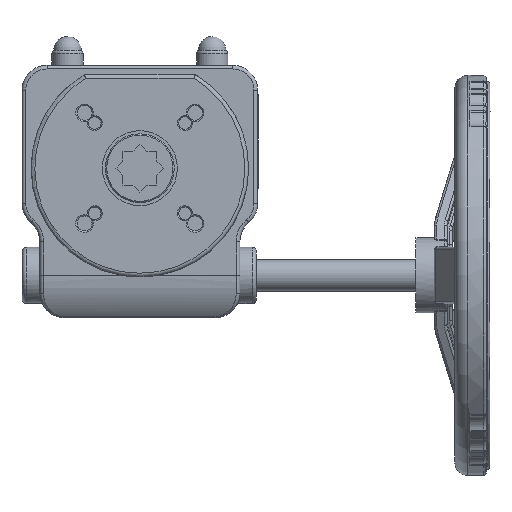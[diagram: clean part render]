
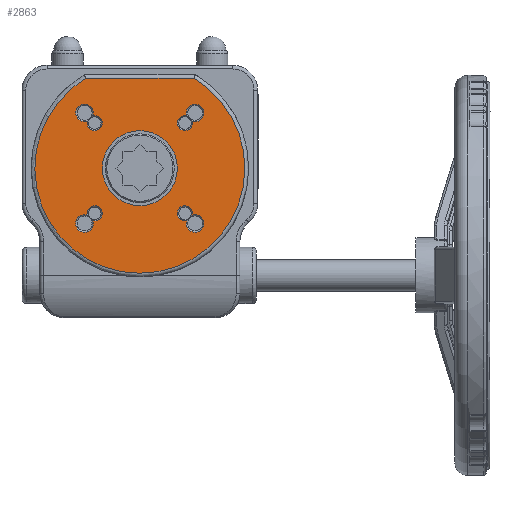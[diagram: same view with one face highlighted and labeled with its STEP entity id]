
A CAD part, front view. The second image highlights one B-rep face of the part: STEP entity #2863.
In plain terms, the highlighted planar face has unit normal (0, -1, 0).
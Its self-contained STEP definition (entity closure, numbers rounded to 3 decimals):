
#2863=ADVANCED_FACE('',(#12399,#12401,#12403,#12405,#12407,#12409),#12411,.T.);
#12399=FACE_BOUND('',#12400,.T.);
#12400=EDGE_LOOP('',(#24215,#24216));
#12401=FACE_BOUND('',#12402,.T.);
#12402=EDGE_LOOP('',(#24217));
#12403=FACE_BOUND('',#12404,.T.);
#12404=EDGE_LOOP('',(#24218,#24219,#24220,#24221));
#12405=FACE_BOUND('',#12406,.T.);
#12406=EDGE_LOOP('',(#24222,#24223,#24224,#24225));
#12407=FACE_BOUND('',#12408,.T.);
#12408=EDGE_LOOP('',(#24226,#24227,#24228,#24229));
#12409=FACE_BOUND('',#12410,.T.);
#12410=EDGE_LOOP('',(#24230,#24231,#24232,#24233));
#12411=PLANE('',#12412);
#12412=AXIS2_PLACEMENT_3D('',#12413,#12414,#12415);
#12413=CARTESIAN_POINT('',(0.,0.,0.));
#12414=DIRECTION('',(0.,-1.,0.));
#12415=DIRECTION('',(0.,0.,-1.));
#24215=ORIENTED_EDGE('',*,*,#28314,.T.);
#24216=ORIENTED_EDGE('',*,*,#28316,.T.);
#24217=ORIENTED_EDGE('',*,*,#28321,.T.);
#24218=ORIENTED_EDGE('',*,*,#28322,.F.);
#24219=ORIENTED_EDGE('',*,*,#28323,.F.);
#24220=ORIENTED_EDGE('',*,*,#28324,.F.);
#24221=ORIENTED_EDGE('',*,*,#28325,.T.);
#24222=ORIENTED_EDGE('',*,*,#28326,.F.);
#24223=ORIENTED_EDGE('',*,*,#28327,.F.);
#24224=ORIENTED_EDGE('',*,*,#28328,.F.);
#24225=ORIENTED_EDGE('',*,*,#28329,.T.);
#24226=ORIENTED_EDGE('',*,*,#28330,.F.);
#24227=ORIENTED_EDGE('',*,*,#28331,.F.);
#24228=ORIENTED_EDGE('',*,*,#28332,.F.);
#24229=ORIENTED_EDGE('',*,*,#28333,.T.);
#24230=ORIENTED_EDGE('',*,*,#28334,.T.);
#24231=ORIENTED_EDGE('',*,*,#28335,.F.);
#24232=ORIENTED_EDGE('',*,*,#28336,.F.);
#24233=ORIENTED_EDGE('',*,*,#28337,.F.);
#28314=EDGE_CURVE('',#31224,#31222,#31225,.T.);
#28316=EDGE_CURVE('',#31222,#31224,#31227,.T.);
#28321=EDGE_CURVE('',#31236,#31236,#31237,.T.);
#28322=EDGE_CURVE('',#31238,#31239,#31240,.T.);
#28323=EDGE_CURVE('',#31241,#31238,#31242,.T.);
#28324=EDGE_CURVE('',#31243,#31241,#31244,.T.);
#28325=EDGE_CURVE('',#31243,#31239,#31245,.F.);
#28326=EDGE_CURVE('',#31246,#31247,#31248,.T.);
#28327=EDGE_CURVE('',#31249,#31246,#31250,.T.);
#28328=EDGE_CURVE('',#31251,#31249,#31252,.T.);
#28329=EDGE_CURVE('',#31251,#31247,#31253,.F.);
#28330=EDGE_CURVE('',#31254,#31255,#31256,.T.);
#28331=EDGE_CURVE('',#31257,#31254,#31258,.T.);
#28332=EDGE_CURVE('',#31259,#31257,#31260,.T.);
#28333=EDGE_CURVE('',#31259,#31255,#31261,.F.);
#28334=EDGE_CURVE('',#31262,#31263,#31264,.F.);
#28335=EDGE_CURVE('',#31265,#31263,#31266,.T.);
#28336=EDGE_CURVE('',#31267,#31265,#31268,.T.);
#28337=EDGE_CURVE('',#31262,#31267,#31269,.T.);
#31222=VERTEX_POINT('',#40775);
#31224=VERTEX_POINT('',#40797);
#31225=CIRCLE('',#40798,84.);
#31227=LINE('',#40823,#40824);
#31236=VERTEX_POINT('',#40846);
#31237=CIRCLE('',#40847,30.);
#31238=VERTEX_POINT('',#40851);
#31239=VERTEX_POINT('',#40852);
#31240=CIRCLE('',#40853,6.);
#31241=VERTEX_POINT('',#40857);
#31242=CIRCLE('',#40858,6.);
#31243=VERTEX_POINT('',#40862);
#31244=CIRCLE('',#40863,7.);
#31245=CIRCLE('',#40867,7.);
#31246=VERTEX_POINT('',#40871);
#31247=VERTEX_POINT('',#40872);
#31248=CIRCLE('',#40873,6.);
#31249=VERTEX_POINT('',#40877);
#31250=CIRCLE('',#40878,6.);
#31251=VERTEX_POINT('',#40882);
#31252=CIRCLE('',#40883,7.);
#31253=CIRCLE('',#40887,7.);
#31254=VERTEX_POINT('',#40891);
#31255=VERTEX_POINT('',#40892);
#31256=CIRCLE('',#40893,7.);
#31257=VERTEX_POINT('',#40897);
#31258=CIRCLE('',#40898,6.);
#31259=VERTEX_POINT('',#40902);
#31260=CIRCLE('',#40903,6.);
#31261=CIRCLE('',#40907,7.);
#31262=VERTEX_POINT('',#40911);
#31263=VERTEX_POINT('',#40912);
#31264=CIRCLE('',#40913,7.);
#31265=VERTEX_POINT('',#40917);
#31266=CIRCLE('',#40918,6.);
#31267=VERTEX_POINT('',#40922);
#31268=CIRCLE('',#40923,6.);
#31269=CIRCLE('',#40927,7.);
#40775=CARTESIAN_POINT('',(43.509,0.,71.854));
#40797=CARTESIAN_POINT('',(-43.509,0.,71.854));
#40798=AXIS2_PLACEMENT_3D('',#40799,#40800,#40801);
#40799=CARTESIAN_POINT('',(0.,0.,0.));
#40800=DIRECTION('',(0.,-1.,0.));
#40801=DIRECTION('',(-0.518,0.,0.855));
#40823=CARTESIAN_POINT('',(43.509,0.,71.854));
#40824=VECTOR('',#40825,1.);
#40825=DIRECTION('',(-1.,0.,0.));
#40846=CARTESIAN_POINT('',(0.,0.,-30.));
#40847=AXIS2_PLACEMENT_3D('',#40848,#40849,#40850);
#40848=CARTESIAN_POINT('',(0.,0.,0.));
#40849=DIRECTION('',(0.,1.,0.));
#40850=DIRECTION('',(0.,0.,-1.));
#40851=CARTESIAN_POINT('',(-36.062,0.,-42.062));
#40852=CARTESIAN_POINT('',(-41.864,0.,-37.593));
#40853=AXIS2_PLACEMENT_3D('',#40854,#40855,#40856);
#40854=CARTESIAN_POINT('',(-36.062,0.,-36.062));
#40855=DIRECTION('',(0.,-1.,0.));
#40856=DIRECTION('',(0.,0.,-1.));
#40857=CARTESIAN_POINT('',(-37.593,0.,-41.864));
#40858=AXIS2_PLACEMENT_3D('',#40859,#40860,#40861);
#40859=CARTESIAN_POINT('',(-36.062,0.,-36.062));
#40860=DIRECTION('',(0.,-1.,0.));
#40861=DIRECTION('',(-0.255,0.,-0.967));
#40862=CARTESIAN_POINT('',(-44.194,0.,-51.194));
#40863=AXIS2_PLACEMENT_3D('',#40864,#40865,#40866);
#40864=CARTESIAN_POINT('',(-44.194,0.,-44.194));
#40865=DIRECTION('',(0.,-1.,0.));
#40866=DIRECTION('',(0.,0.,-1.));
#40867=AXIS2_PLACEMENT_3D('',#40868,#40869,#40870);
#40868=CARTESIAN_POINT('',(-44.194,0.,-44.194));
#40869=DIRECTION('',(0.,-1.,0.));
#40870=DIRECTION('',(0.333,0.,0.943));
#40871=CARTESIAN_POINT('',(-36.062,0.,42.062));
#40872=CARTESIAN_POINT('',(-37.593,0.,41.864));
#40873=AXIS2_PLACEMENT_3D('',#40874,#40875,#40876);
#40874=CARTESIAN_POINT('',(-36.062,0.,36.062));
#40875=DIRECTION('',(0.,-1.,0.));
#40876=DIRECTION('',(0.,0.,1.));
#40877=CARTESIAN_POINT('',(-41.864,0.,37.593));
#40878=AXIS2_PLACEMENT_3D('',#40879,#40880,#40881);
#40879=CARTESIAN_POINT('',(-36.062,0.,36.062));
#40880=DIRECTION('',(0.,-1.,0.));
#40881=DIRECTION('',(-0.967,0.,0.255));
#40882=CARTESIAN_POINT('',(-44.194,0.,37.194));
#40883=AXIS2_PLACEMENT_3D('',#40884,#40885,#40886);
#40884=CARTESIAN_POINT('',(-44.194,0.,44.194));
#40885=DIRECTION('',(0.,-1.,0.));
#40886=DIRECTION('',(0.,0.,-1.));
#40887=AXIS2_PLACEMENT_3D('',#40888,#40889,#40890);
#40888=CARTESIAN_POINT('',(-44.194,0.,44.194));
#40889=DIRECTION('',(0.,-1.,0.));
#40890=DIRECTION('',(0.943,0.,-0.333));
#40891=CARTESIAN_POINT('',(41.864,0.,37.593));
#40892=CARTESIAN_POINT('',(44.194,0.,37.194));
#40893=AXIS2_PLACEMENT_3D('',#40894,#40895,#40896);
#40894=CARTESIAN_POINT('',(44.194,0.,44.194));
#40895=DIRECTION('',(0.,-1.,0.));
#40896=DIRECTION('',(-0.333,0.,-0.943));
#40897=CARTESIAN_POINT('',(36.062,0.,42.062));
#40898=AXIS2_PLACEMENT_3D('',#40899,#40900,#40901);
#40899=CARTESIAN_POINT('',(36.062,0.,36.062));
#40900=DIRECTION('',(0.,-1.,0.));
#40901=DIRECTION('',(0.,0.,1.));
#40902=CARTESIAN_POINT('',(37.593,0.,41.864));
#40903=AXIS2_PLACEMENT_3D('',#40904,#40905,#40906);
#40904=CARTESIAN_POINT('',(36.062,0.,36.062));
#40905=DIRECTION('',(0.,-1.,0.));
#40906=DIRECTION('',(0.255,0.,0.967));
#40907=AXIS2_PLACEMENT_3D('',#40908,#40909,#40910);
#40908=CARTESIAN_POINT('',(44.194,0.,44.194));
#40909=DIRECTION('',(0.,-1.,0.));
#40910=DIRECTION('',(0.,0.,-1.));
#40911=CARTESIAN_POINT('',(44.194,0.,-37.194));
#40912=CARTESIAN_POINT('',(37.593,0.,-41.864));
#40913=AXIS2_PLACEMENT_3D('',#40914,#40915,#40916);
#40914=CARTESIAN_POINT('',(44.194,0.,-44.194));
#40915=DIRECTION('',(0.,-1.,0.));
#40916=DIRECTION('',(-0.943,0.,0.333));
#40917=CARTESIAN_POINT('',(36.062,0.,-42.062));
#40918=AXIS2_PLACEMENT_3D('',#40919,#40920,#40921);
#40919=CARTESIAN_POINT('',(36.062,0.,-36.062));
#40920=DIRECTION('',(0.,-1.,0.));
#40921=DIRECTION('',(0.,0.,-1.));
#40922=CARTESIAN_POINT('',(41.864,0.,-37.593));
#40923=AXIS2_PLACEMENT_3D('',#40924,#40925,#40926);
#40924=CARTESIAN_POINT('',(36.062,0.,-36.062));
#40925=DIRECTION('',(0.,-1.,0.));
#40926=DIRECTION('',(0.967,0.,-0.255));
#40927=AXIS2_PLACEMENT_3D('',#40928,#40929,#40930);
#40928=CARTESIAN_POINT('',(44.194,0.,-44.194));
#40929=DIRECTION('',(0.,-1.,0.));
#40930=DIRECTION('',(0.,0.,1.));
